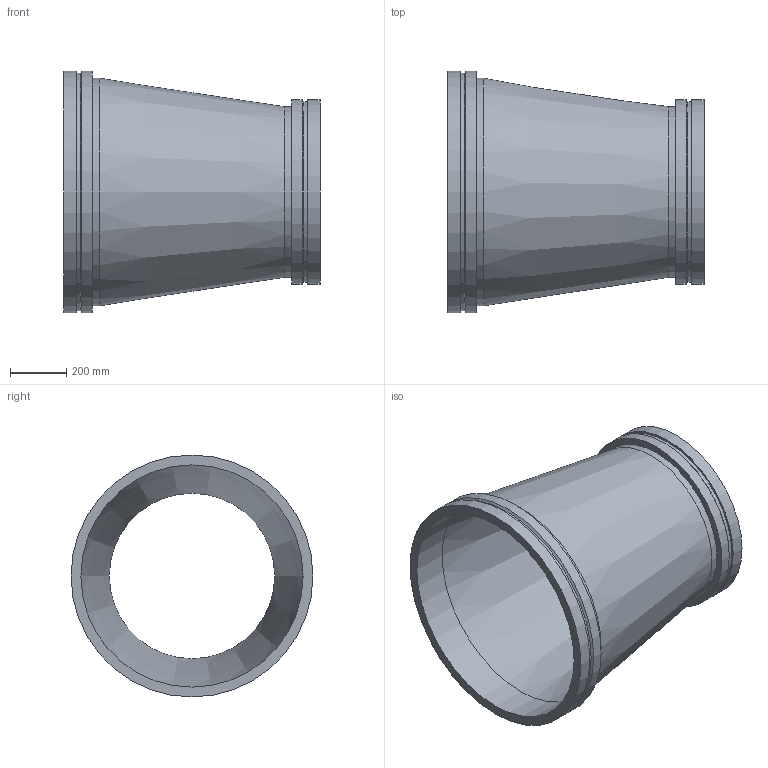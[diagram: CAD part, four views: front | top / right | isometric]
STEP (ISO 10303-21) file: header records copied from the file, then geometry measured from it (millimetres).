
FILE_DESCRIPTION(/* description */ ('VIC REDUCER CONCENTRIC No W50 VR','CAx-IF Rec.Pracs.---Representation and Presentation of Product Manufacturing Information (PMI)---4.0---2014-10-13'),/* implementation_level */ '2;1');
FILE_NAME(/* name */ 'C:\Users\kkamble\AppData\Roaming\Autodesk\ApplicationPlugins\Back Up\Victaulic_Vic-Ring_Reducer Concentric_No W50 VR (AGR)\Victaulic_Vic-Ring_Reducer Concentric_No W50 VR (AGR)_32.0x24.0 (800x600).stp',/* time_stamp */ '2020-09-10T11:46:42+05:00',/* author */ ('cps_temp'),/* organization */ ('Victaulic'),/* preprocessor_version */ 'ST-DEVELOPER v17.2',/* originating_system */ 'Autodesk Inventor 2019',/* authorisation */ '');
FILE_SCHEMA (('AP242_MANAGED_MODEL_BASED_3D_ENGINEERING_MIM_LF { 1 0 10303 442 1 1 4 }'));
Length unit declared in the file: inch
Products named in the file (1): W50 VR-32.0x24.0
Bounding box: 914.4 x 863.6 x 863.6 mm (x, y, z)
Volume: 30571977.4 mm3; surface area: 4423979.5 mm2
Topology: 1 solids, 1 shells, 20 faces, 54 edges, 40 vertices
Faces by surface type: cylinder 10, plane 6, cone 4
Full cylindrical faces by diameter (mm): 590.55 x1, 609.6 x1, 645.922 x1, 660.4 x2, 793.75 x1, 812.8 x1, 849.122 x1, 863.6 x2
Entity records: 830 total; most frequent: DIRECTION 162, CARTESIAN_POINT 132, ORIENTED_EDGE 108, AXIS2_PLACEMENT_3D 74, EDGE_CURVE 54, CIRCLE 40, VERTEX_POINT 40, EDGE_LOOP 26
